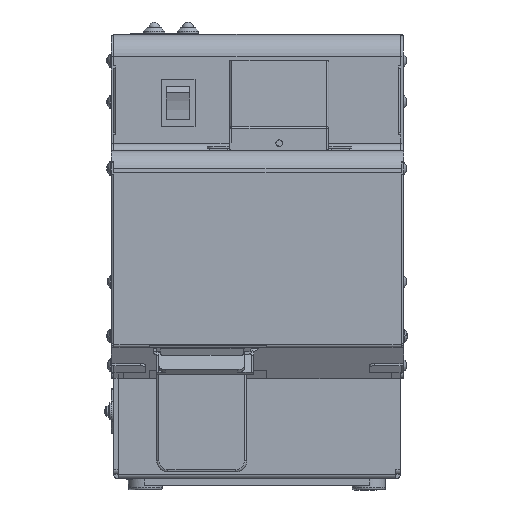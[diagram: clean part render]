
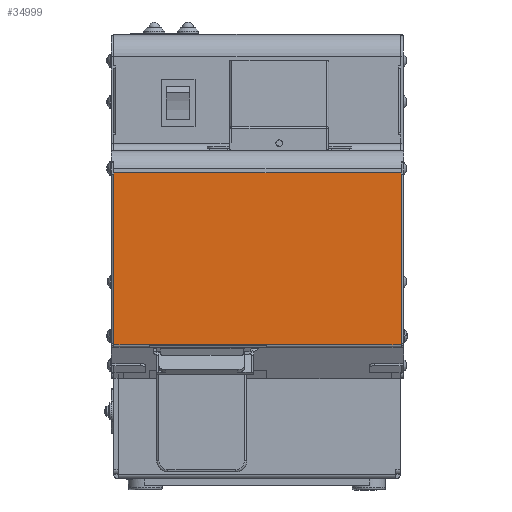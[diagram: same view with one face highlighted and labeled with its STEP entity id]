
A CAD part, front view. The second image highlights one B-rep face of the part: STEP entity #34999.
In plain terms, the highlighted planar face has unit normal (0, -1, 0).
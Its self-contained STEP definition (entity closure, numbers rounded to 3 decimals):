
#692=PLANE('',#37207);
#3893=FACE_OUTER_BOUND('',#5868,.T.);
#5868=EDGE_LOOP('',(#25462,#25463,#25464,#25465,#25466,#25467,#25468,#25469,
#25470,#25471,#25472,#25473));
#9476=LINE('',#50403,#12712);
#9538=LINE('',#50564,#12774);
#9576=LINE('',#50673,#12812);
#9625=LINE('',#50807,#12861);
#9631=LINE('',#50825,#12867);
#9862=LINE('',#51412,#13098);
#9866=LINE('',#51420,#13102);
#9867=LINE('',#51422,#13103);
#9868=LINE('',#51423,#13104);
#9869=LINE('',#51425,#13105);
#9870=LINE('',#51427,#13106);
#9871=LINE('',#51428,#13107);
#12712=VECTOR('',#40557,0.609);
#12774=VECTOR('',#40661,0.019);
#12812=VECTOR('',#40769,0.609);
#12861=VECTOR('',#40894,0.5);
#12867=VECTOR('',#40912,127.6);
#13098=VECTOR('',#41413,59.9);
#13102=VECTOR('',#41421,75.21);
#13103=VECTOR('',#41422,0.5);
#13104=VECTOR('',#41423,75.21);
#13105=VECTOR('',#41424,15.7);
#13106=VECTOR('',#41425,0.019);
#13107=VECTOR('',#41426,52.);
#16334=VERTEX_POINT('',#50400);
#16335=VERTEX_POINT('',#50402);
#16412=VERTEX_POINT('',#50561);
#16413=VERTEX_POINT('',#50563);
#16448=VERTEX_POINT('',#50670);
#16449=VERTEX_POINT('',#50672);
#16495=VERTEX_POINT('',#50804);
#16496=VERTEX_POINT('',#50806);
#16502=VERTEX_POINT('',#50823);
#16726=VERTEX_POINT('',#51421);
#16727=VERTEX_POINT('',#51424);
#16728=VERTEX_POINT('',#51426);
#19668=EDGE_CURVE('',#16335,#16334,#9476,.T.);
#19749=EDGE_CURVE('',#16413,#16412,#9538,.T.);
#19805=EDGE_CURVE('',#16449,#16448,#9576,.T.);
#19871=EDGE_CURVE('',#16496,#16495,#9625,.T.);
#19880=EDGE_CURVE('',#16502,#16495,#9631,.T.);
#20176=EDGE_CURVE('',#16335,#16412,#9862,.T.);
#20180=EDGE_CURVE('',#16496,#16334,#9866,.T.);
#20181=EDGE_CURVE('',#16502,#16726,#9867,.T.);
#20182=EDGE_CURVE('',#16449,#16726,#9868,.T.);
#20183=EDGE_CURVE('',#16727,#16448,#9869,.T.);
#20184=EDGE_CURVE('',#16727,#16728,#9870,.T.);
#20185=EDGE_CURVE('',#16728,#16413,#9871,.T.);
#25462=ORIENTED_EDGE('',*,*,#20176,.F.);
#25463=ORIENTED_EDGE('',*,*,#19668,.T.);
#25464=ORIENTED_EDGE('',*,*,#20180,.F.);
#25465=ORIENTED_EDGE('',*,*,#19871,.T.);
#25466=ORIENTED_EDGE('',*,*,#19880,.F.);
#25467=ORIENTED_EDGE('',*,*,#20181,.T.);
#25468=ORIENTED_EDGE('',*,*,#20182,.F.);
#25469=ORIENTED_EDGE('',*,*,#19805,.T.);
#25470=ORIENTED_EDGE('',*,*,#20183,.F.);
#25471=ORIENTED_EDGE('',*,*,#20184,.T.);
#25472=ORIENTED_EDGE('',*,*,#20185,.T.);
#25473=ORIENTED_EDGE('',*,*,#19749,.T.);
#34999=ADVANCED_FACE('',(#3893),#692,.T.);
#37207=AXIS2_PLACEMENT_3D('',#51419,#41419,#41420);
#40557=DIRECTION('',(0.,0.,1.));
#40661=DIRECTION('',(0.,0.,-1.));
#40769=DIRECTION('',(0.,0.,-1.));
#40894=DIRECTION('',(0.,0.,1.));
#40912=DIRECTION('',(1.,0.,0.));
#41413=DIRECTION('',(-1.,0.,0.));
#41419=DIRECTION('center_axis',(0.,-1.,0.));
#41420=DIRECTION('ref_axis',(1.,0.,0.));
#41421=DIRECTION('',(0.,0.,-1.));
#41422=DIRECTION('',(0.,0.,-1.));
#41423=DIRECTION('',(0.,0.,1.));
#41424=DIRECTION('',(-1.,0.,0.));
#41425=DIRECTION('',(0.,0.,1.));
#41426=DIRECTION('',(1.,0.,0.));
#50400=CARTESIAN_POINT('',(127.7,-112.032,-188.731));
#50402=CARTESIAN_POINT('',(127.7,-112.032,-189.34));
#50403=CARTESIAN_POINT('',(127.7,-112.032,-189.34));
#50561=CARTESIAN_POINT('',(67.8,-112.032,-189.34));
#50563=CARTESIAN_POINT('',(67.8,-112.032,-189.321));
#50564=CARTESIAN_POINT('',(67.8,-112.032,-189.321));
#50670=CARTESIAN_POINT('',(0.1,-112.032,-189.34));
#50672=CARTESIAN_POINT('',(0.1,-112.032,-188.731));
#50673=CARTESIAN_POINT('',(0.1,-112.032,-188.731));
#50804=CARTESIAN_POINT('',(127.7,-112.032,-113.021));
#50806=CARTESIAN_POINT('',(127.7,-112.032,-113.521));
#50807=CARTESIAN_POINT('',(127.7,-112.032,-113.521));
#50823=CARTESIAN_POINT('',(0.1,-112.032,-113.021));
#50825=CARTESIAN_POINT('',(0.1,-112.032,-113.021));
#51412=CARTESIAN_POINT('',(127.7,-112.032,-189.34));
#51419=CARTESIAN_POINT('Origin',(128.8,-112.032,-103.021));
#51420=CARTESIAN_POINT('',(127.7,-112.032,-113.521));
#51421=CARTESIAN_POINT('',(0.1,-112.032,-113.521));
#51422=CARTESIAN_POINT('',(0.1,-112.032,-113.021));
#51423=CARTESIAN_POINT('',(0.1,-112.032,-188.731));
#51424=CARTESIAN_POINT('',(15.8,-112.032,-189.34));
#51425=CARTESIAN_POINT('',(15.8,-112.032,-189.34));
#51426=CARTESIAN_POINT('',(15.8,-112.032,-189.321));
#51427=CARTESIAN_POINT('',(15.8,-112.032,-189.34));
#51428=CARTESIAN_POINT('',(15.8,-112.032,-189.321));
